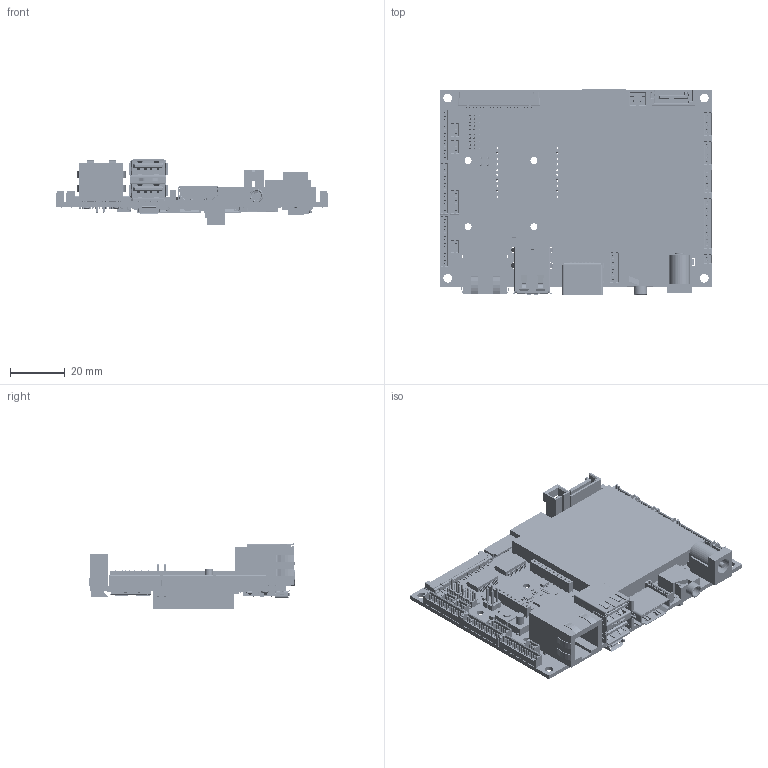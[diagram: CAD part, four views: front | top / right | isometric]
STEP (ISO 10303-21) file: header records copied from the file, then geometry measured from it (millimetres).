
FILE_DESCRIPTION (( 'STEP AP214' ), '1' );
FILE_NAME ('ConnectCore i.MX6 SBC.STEP', '2014-05-29T18:52:36', ( '' ), ( '' ), 'SwSTEP 2.0', 'SolidWorks 2013', '' );
FILE_SCHEMA (( 'AUTOMOTIVE_DESIGN' ));
Length unit declared in the file: inch
Products named in the file (564): Extruded_57; R18; C99; R72; 841472208; J24; 924259904; R98; L18; C57; ConnectCore i.MX6 SBC; Extruded_65; R37; J3; Extruded_20; Extruded_84; Extruded_37; C24; R117; R2; C79; 924258112; U9; R56; 787270001; Extruded_91; Extruded_44; 924258624; U2; R17; C98; 755584608; Cylinder_8; R78; J23; Extruded_26; R97; L17; C56; U5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
Assembly tree (1754 placements, depth 4):
  ConnectCore i.MX6 SBC
    Board
    SW2
      924259392  x4
        Extruded
      841471968
        Cylinder
      924259520
        Extruded_2
    R124
      575017472
        Extruded_3
      575017344  x2
        Extruded_4
    R123
      575017472
        Extruded_3
      575017344  x2
        Extruded_4
    L1
      SDR0403
    C62
      924258112
        Extruded_5
      924257728  x2
        Extruded_6
    C66
      924258368
        Extruded_7
      924258240  x2
        Extruded_8
    C67
      924258368
        Extruded_7
      924258240  x2
        Extruded_8
    Q2
      924254656  x3
        Extruded_9
      924262208
        Extruded_10
    R64
      575017472
        Extruded_3
      575017344  x2
        Extruded_4
    R72
      755585376
        Extruded_11
      755584608  x2
        Extruded_12
    R75
      755585376
        Extruded_11
      755584608  x2
        Extruded_12
    U12
      924262464
        Extruded_13
      924252864  x8
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Bounding box: 100 x 75.38 x 24.52 mm (x, y, z)
Volume: 37711.4 mm3; surface area: 47706.8 mm2
Topology: 1330 solids, 1335 shells, 19122 faces, 46862 edges, 30640 vertices
Faces by surface type: plane 17111, cylinder 1935, cone 39, bspline 29, torus 8
Entity records: 340596 total; most frequent: CARTESIAN_POINT 59850, DIRECTION 48380, ORIENTED_EDGE 47804, EDGE_CURVE 23906, LINE 20020, VECTOR 20020, VERTEX_POINT 15636, AXIS2_PLACEMENT_3D 14180
